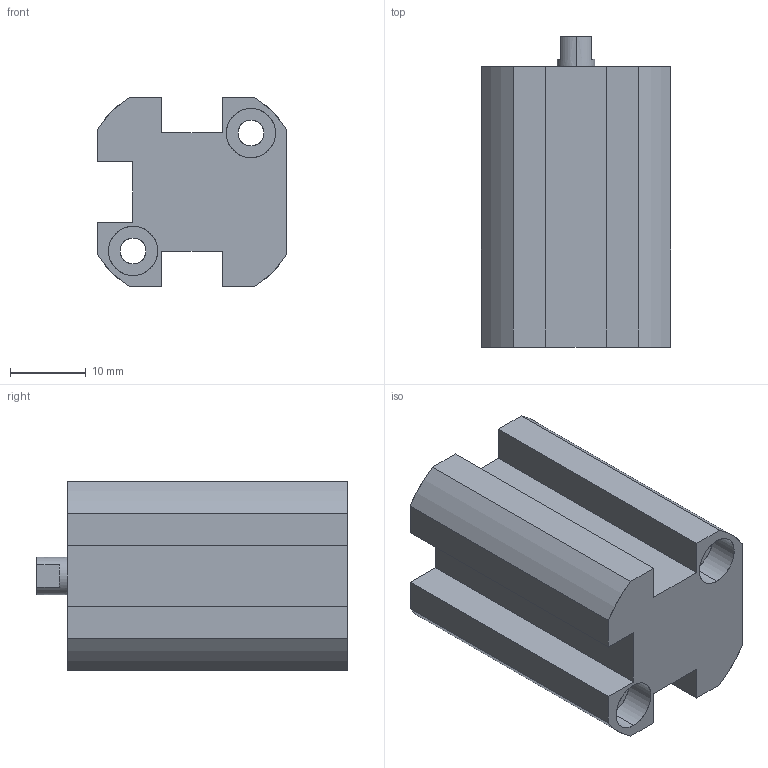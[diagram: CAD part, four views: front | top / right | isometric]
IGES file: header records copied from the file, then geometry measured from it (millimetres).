
Start section: SolidWorks IGES file using analytic representation for surfaces
Global section: file name: C:\Users\Toshiba\Desktop\XG#1-10-10.IGS; native system: SolidWorks 2014; preprocessor: SolidWorks 2014; author: Toshiba; date: 160524.093839; units: millimetre
Bounding box: 25 x 41 x 25 mm (x, y, z)
Surface area: 6671.2 mm2 (no closed solid volume)
Topology: 0 solids, 0 shells, 72 faces, 1163 edges, 1161 vertices
Faces by surface type: revolution 39, bspline 33
